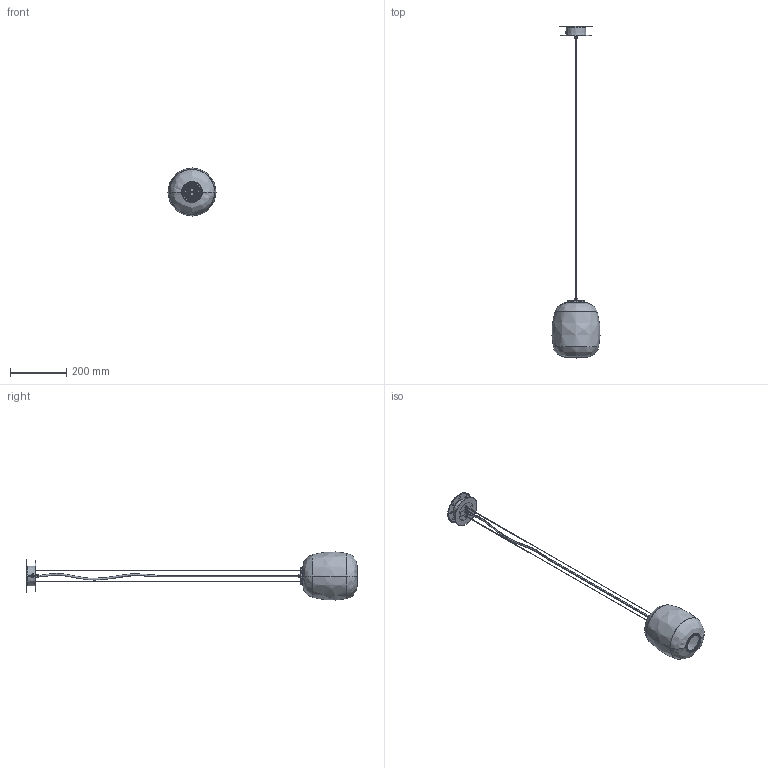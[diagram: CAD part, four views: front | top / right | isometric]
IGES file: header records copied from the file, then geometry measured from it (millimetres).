
Start section: SolidWorks IGES file using analytic representation for surfaces
Global section: file name: C:\Users\berta.gumma\OneDrive - santa &cole\Desktop\globo cestita ul.IGS; native system: SolidWorks 2021; preprocessor: SolidWorks 2021; author: berta.gumma; date: 230922.121639; units: millimetre
Bounding box: 171.63 x 1185.15 x 171.62 mm (x, y, z)
Surface area: 371910.7 mm2 (no closed solid volume)
Topology: 0 solids, 0 shells, 1057 faces, 12950 edges, 12948 vertices
Faces by surface type: bspline 543, revolution 514
